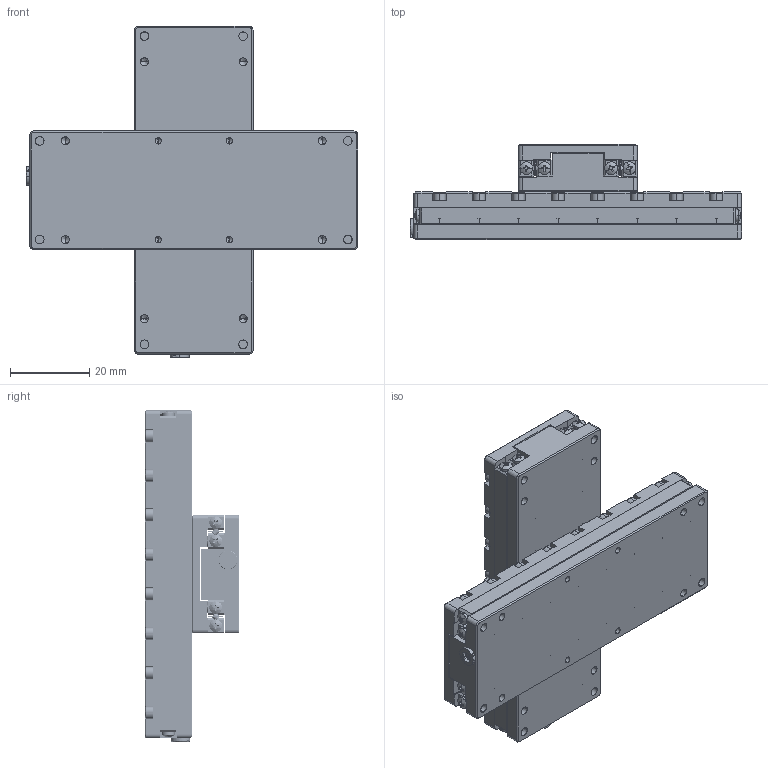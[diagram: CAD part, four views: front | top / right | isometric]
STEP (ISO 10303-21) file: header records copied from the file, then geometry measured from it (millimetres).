
FILE_DESCRIPTION (( 'STEP AP214' ), '1' );
FILE_NAME ('N56.XY50K-B1开环二维直线压电马达3D图（25.08.01）.STEP', '2025-08-01T05:24:30', ( '微软用户' ), ( '微软中国' ), 'SwSTEP 2.0', 'SolidWorks 2016', '' );
FILE_SCHEMA (( 'AUTOMOTIVE_DESIGN' ));
Length unit declared in the file: millimetre
Products named in the file (1): N56.XY50K-B1开环二维直线压电马达3D图（25.08.01）
Bounding box: 83.9 x 24 x 83.9 mm (x, y, z)
Volume: 41243.1 mm3; surface area: 49720.5 mm2
Topology: 182 solids, 182 shells, 3998 faces, 9802 edges, 6238 vertices
Faces by surface type: plane 2026, cylinder 1454, cone 358, bspline 160
Entity records: 164797 total; most frequent: CARTESIAN_POINT 23857, DIRECTION 20286, ORIENTED_EDGE 19076, EDGE_CURVE 9538, AXIS2_PLACEMENT_3D 7419, VERTEX_POINT 6238, LINE 5448, VECTOR 5448
